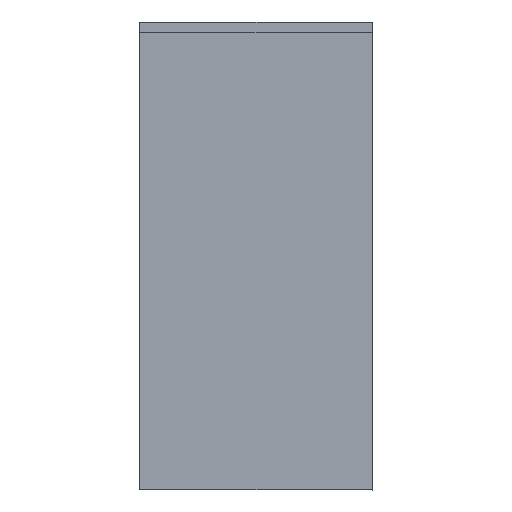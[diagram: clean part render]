
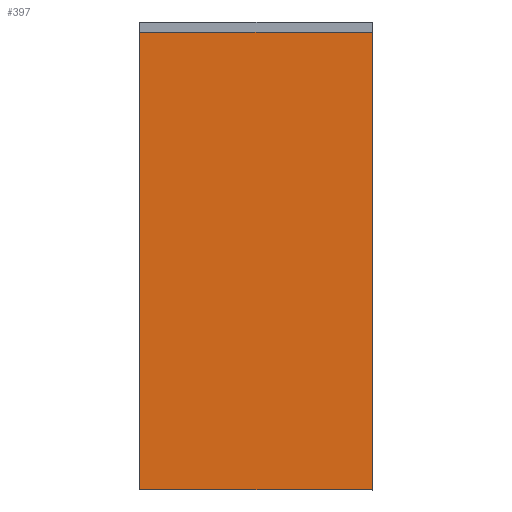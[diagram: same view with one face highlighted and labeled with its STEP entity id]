
A CAD part, left-side view. The second image highlights one B-rep face of the part: STEP entity #397.
In plain terms, the highlighted planar face has unit normal (-1, 0, 0).
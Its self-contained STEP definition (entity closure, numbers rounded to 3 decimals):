
#2 = B_SPLINE_CURVE_WITH_KNOTS ( 'NONE', 3,
 ( #3, #200, #932, #811 ),
 .UNSPECIFIED., .F., .F.,
 ( 4, 4 ),
 ( 0., 1. ),
 .UNSPECIFIED. ) ;
#3 = CARTESIAN_POINT ( 'NONE',  ( -215.222, 35.882, 14.45 ) ) ;
#63 = AXIS2_PLACEMENT_3D ( 'NONE', #594, #1406, #1411 ) ;
#200 = CARTESIAN_POINT ( 'NONE',  ( -215.222, 23.549, 14.45 ) ) ;
#230 = EDGE_CURVE ( 'NONE', #695, #908, #2, .T. ) ;
#260 = VERTEX_POINT ( 'NONE', #1327 ) ;
#295 = CARTESIAN_POINT ( 'NONE',  ( -215.222, -1.118, 14.45 ) ) ;
#318 = B_SPLINE_CURVE_WITH_KNOTS ( 'NONE', 3,
 ( #797, #1224, #332, #1420 ),
 .UNSPECIFIED., .F., .F.,
 ( 4, 4 ),
 ( 0., 1. ),
 .UNSPECIFIED. ) ;
#332 = CARTESIAN_POINT ( 'NONE',  ( -215.222, 11.216, -58.55 ) ) ;
#337 = CARTESIAN_POINT ( 'NONE',  ( -215.222, -1.118, -9.883 ) ) ;
#362 = ORIENTED_EDGE ( 'NONE', *, *, #1294, .T. ) ;
#397 = ADVANCED_FACE ( 'NONE', ( #840 ), #735, .F. ) ;
#401 = CARTESIAN_POINT ( 'NONE',  ( -215.222, -1.118, -34.217 ) ) ;
#433 = CARTESIAN_POINT ( 'NONE',  ( -215.222, 35.882, -58.55 ) ) ;
#515 = CARTESIAN_POINT ( 'NONE',  ( -215.222, -1.118, -58.55 ) ) ;
#594 = CARTESIAN_POINT ( 'NONE',  ( -215.222, -1.118, -58.55 ) ) ;
#629 = EDGE_CURVE ( 'NONE', #695, #1010, #1117, .T. ) ;
#686 = B_SPLINE_CURVE_WITH_KNOTS ( 'NONE', 3,
 ( #515, #401, #337, #752 ),
 .UNSPECIFIED., .F., .F.,
 ( 4, 4 ),
 ( 0., 1. ),
 .UNSPECIFIED. ) ;
#695 = VERTEX_POINT ( 'NONE', #843 ) ;
#697 = CARTESIAN_POINT ( 'NONE',  ( -215.222, 35.882, -34.217 ) ) ;
#712 = EDGE_CURVE ( 'NONE', #1010, #260, #318, .T. ) ;
#735 = PLANE ( 'NONE',  #63 ) ;
#752 = CARTESIAN_POINT ( 'NONE',  ( -215.222, -1.118, 14.45 ) ) ;
#770 = ORIENTED_EDGE ( 'NONE', *, *, #230, .F. ) ;
#774 = EDGE_LOOP ( 'NONE', ( #851, #1194, #362, #770 ) ) ;
#797 = CARTESIAN_POINT ( 'NONE',  ( -215.222, 35.882, -58.55 ) ) ;
#811 = CARTESIAN_POINT ( 'NONE',  ( -215.222, -1.118, 14.45 ) ) ;
#840 = FACE_OUTER_BOUND ( 'NONE', #774, .T. ) ;
#843 = CARTESIAN_POINT ( 'NONE',  ( -215.222, 35.882, 14.45 ) ) ;
#851 = ORIENTED_EDGE ( 'NONE', *, *, #629, .T. ) ;
#857 = CARTESIAN_POINT ( 'NONE',  ( -215.222, 35.882, -58.55 ) ) ;
#908 = VERTEX_POINT ( 'NONE', #295 ) ;
#932 = CARTESIAN_POINT ( 'NONE',  ( -215.222, 11.216, 14.45 ) ) ;
#1010 = VERTEX_POINT ( 'NONE', #857 ) ;
#1116 = CARTESIAN_POINT ( 'NONE',  ( -215.222, 35.882, -9.883 ) ) ;
#1117 = B_SPLINE_CURVE_WITH_KNOTS ( 'NONE', 3,
 ( #1410, #1116, #697, #433 ),
 .UNSPECIFIED., .F., .F.,
 ( 4, 4 ),
 ( 0., 1. ),
 .UNSPECIFIED. ) ;
#1194 = ORIENTED_EDGE ( 'NONE', *, *, #712, .T. ) ;
#1224 = CARTESIAN_POINT ( 'NONE',  ( -215.222, 23.549, -58.55 ) ) ;
#1294 = EDGE_CURVE ( 'NONE', #260, #908, #686, .T. ) ;
#1327 = CARTESIAN_POINT ( 'NONE',  ( -215.222, -1.118, -58.55 ) ) ;
#1406 = DIRECTION ( 'NONE',  ( 1., 0., 0. ) ) ;
#1410 = CARTESIAN_POINT ( 'NONE',  ( -215.222, 35.882, 14.45 ) ) ;
#1411 = DIRECTION ( 'NONE',  ( 0., 0., 1. ) ) ;
#1420 = CARTESIAN_POINT ( 'NONE',  ( -215.222, -1.118, -58.55 ) ) ;
